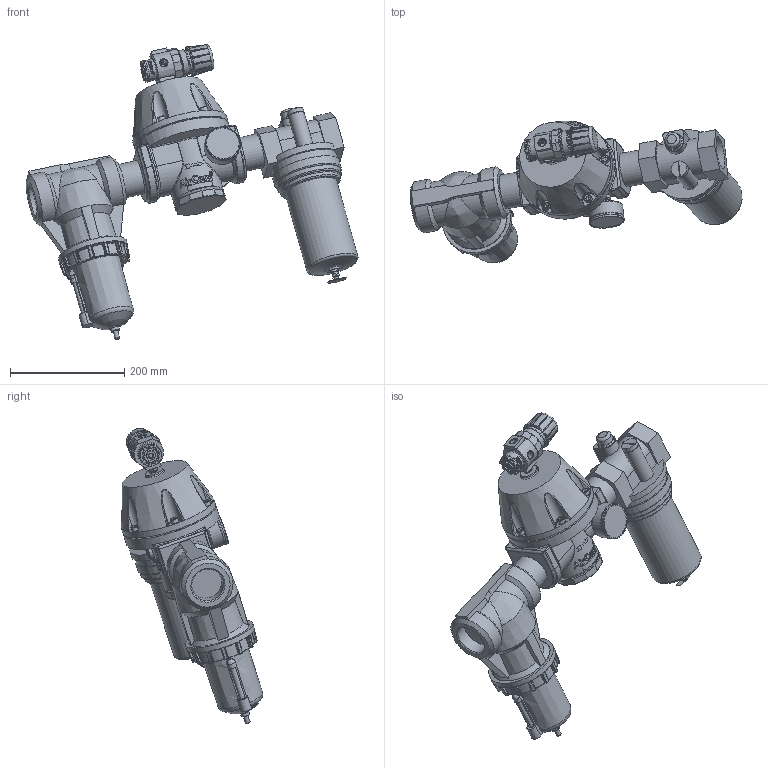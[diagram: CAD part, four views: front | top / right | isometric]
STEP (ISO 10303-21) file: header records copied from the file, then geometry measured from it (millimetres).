
FILE_DESCRIPTION((''),'2;1');
FILE_NAME('U:\AirCom-Produktdokumentation\Wartungseinheiten\C630\Zeichnungen\CAD-Aircom\3D\B-C630-16FRL-W.stp','2013-07-16T10:13:57',('Frank Schroers'),(''),'Autodesk Inventor 2008','Autodesk Inventor 2008','');
FILE_SCHEMA(('AUTOMOTIVE_DESIGN { 1 0 10303 214 1 1 1 1 }'));
Length unit declared in the file: millimetre
Products named in the file (20): B-C630-16FRL-W; B-F602-16W; B-L606-16W; B-R119-16J; ISO 4762 M8 x 25; ISO 4762 M8 x 12; ISO 4762 M8 x 20; B-VM1616VZ; B-R10-02A-Webshop; B-R10-Unterteil-1-4; B-R10-Bodenschraube-131108; B-R10-Federhaube; B-R10-Einstellknopf; 4; B-MA6302-A1; B-MA6302-A1-Skala; B-MA6302-A1-Anschluss; B-MA6302-A1-Deckel; B-MA6302-A1-Gehaeuse
Assembly tree (26 placements, depth 3):
  B-C630-16FRL-W
    B-F602-16W
    B-L606-16W
    B-R119-16J
      B-R119-16J
      ISO 4762 M8 x 25  x2
      ISO 4762 M8 x 12
      ISO 4762 M8 x 20  x6
    B-VM1616VZ  x2
    B-R10-02A-Webshop
      B-R10-Unterteil-1-4
      B-R10-Bodenschraube-131108
      B-R10-Federhaube
      B-R10-Einstellknopf
    4
    B-MA6302-A1
      B-MA6302-A1-Skala
      B-MA6302-A1-Anschluss
      B-MA6302-A1-Deckel
      B-MA6302-A1-Gehaeuse
Bounding box: 582.42 x 248.54 x 517.5 mm (x, y, z)
Volume: 8061257.9 mm3; surface area: 645262.4 mm2
Topology: 24 solids, 24 shells, 2139 faces, 5159 edges, 3155 vertices
Faces by surface type: plane 928, cylinder 465, bspline 365, cone 174, torus 160, sphere 47
Full cylindrical faces by diameter (mm): 1.315 x1, 3.06 x1, 3.1 x1, 3.2 x2, 3.35 x1, 5.35 x1, 6.5 x1, 7.5 x2, 8 x10, 8.7 x1, 8.9 x1, 9 x12, 9.388 x1, 10 x1, 10.519 x1, 10.812 x1, 10.9 x1, 11.5 x3, 13 x11, 14 x1, 15 x1, 15.056 x1, 25 x1, 27 x1, 28.03 x1, 28.5 x1, 29 x1, 29.056 x1, 29.359 x1, 29.518 x1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
Entity records: 100518 total; most frequent: CARTESIAN_POINT 55093, ORIENTED_EDGE 9354, DIRECTION 8924, EDGE_CURVE 4677, AXIS2_PLACEMENT_3D 3451, VERTEX_POINT 2983, EDGE_LOOP 2427, FACE_OUTER_BOUND 2037
